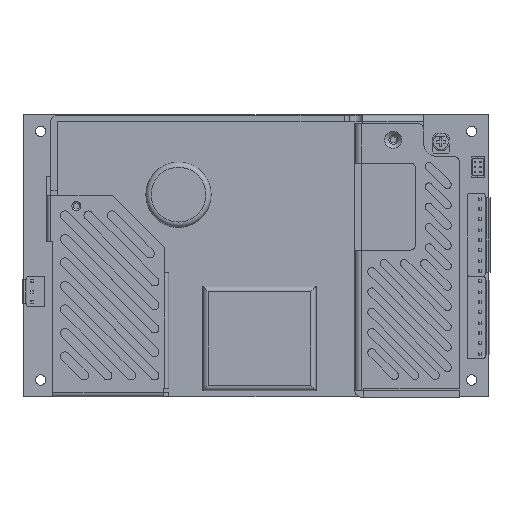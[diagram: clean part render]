
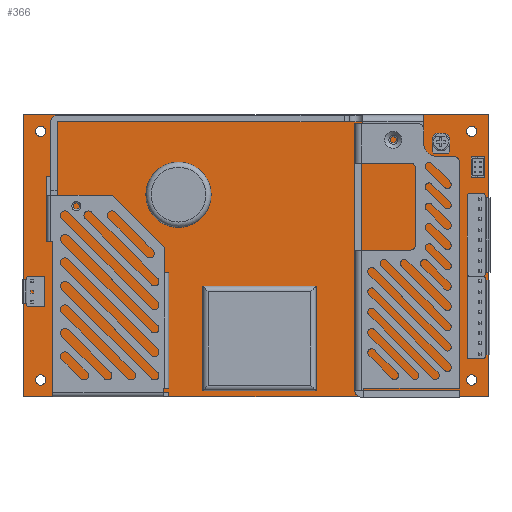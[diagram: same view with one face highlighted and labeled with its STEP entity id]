
A CAD part, top view. The second image highlights one B-rep face of the part: STEP entity #366.
In plain terms, the highlighted planar face has unit normal (0, 0, 1).
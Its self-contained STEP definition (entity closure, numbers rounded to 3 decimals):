
#112=CARTESIAN_POINT('',(-14.917,91.829,1.6));
#113=VERTEX_POINT('',#112);
#114=CARTESIAN_POINT('',(-16.897,91.829,1.6));
#115=DIRECTION('',(0.0,0.0,-1.0));
#116=DIRECTION('',(-1.0,0.0,0.0));
#117=AXIS2_PLACEMENT_3D('',#114,#115,#116);
#118=CIRCLE('',#117,1.98);
#119=EDGE_CURVE('',#113,#113,#118,.T.);
#140=CARTESIAN_POINT('',(150.183,91.829,1.6));
#141=VERTEX_POINT('',#140);
#142=CARTESIAN_POINT('',(148.203,91.829,1.6));
#143=DIRECTION('',(0.0,0.0,-1.0));
#144=DIRECTION('',(-1.0,0.0,0.0));
#145=AXIS2_PLACEMENT_3D('',#142,#143,#144);
#146=CIRCLE('',#145,1.98);
#147=EDGE_CURVE('',#141,#141,#146,.T.);
#168=CARTESIAN_POINT('',(-14.917,-3.421,1.6));
#169=VERTEX_POINT('',#168);
#170=CARTESIAN_POINT('',(-16.897,-3.421,1.6));
#171=DIRECTION('',(0.0,0.0,-1.0));
#172=DIRECTION('',(-1.0,0.0,0.0));
#173=AXIS2_PLACEMENT_3D('',#170,#171,#172);
#174=CIRCLE('',#173,1.98);
#175=EDGE_CURVE('',#169,#169,#174,.T.);
#196=CARTESIAN_POINT('',(150.183,-3.421,1.6));
#197=VERTEX_POINT('',#196);
#198=CARTESIAN_POINT('',(148.203,-3.421,1.6));
#199=DIRECTION('',(0.0,0.0,-1.0));
#200=DIRECTION('',(-1.0,0.0,0.0));
#201=AXIS2_PLACEMENT_3D('',#198,#199,#200);
#202=CIRCLE('',#201,1.98);
#203=EDGE_CURVE('',#197,#197,#202,.T.);
#224=CARTESIAN_POINT('',(154.553,98.204,1.6));
#225=VERTEX_POINT('',#224);
#226=CARTESIAN_POINT('',(154.553,-9.796,1.6));
#227=VERTEX_POINT('',#226);
#228=CARTESIAN_POINT('',(154.553,98.204,1.6));
#229=DIRECTION('',(0.0,-1.0,0.0));
#230=VECTOR('',#229,108.0);
#231=LINE('',#228,#230);
#232=EDGE_CURVE('',#225,#227,#231,.T.);
#264=CARTESIAN_POINT('',(-23.347,-9.796,1.6));
#265=VERTEX_POINT('',#264);
#266=CARTESIAN_POINT('',(154.553,-9.796,1.6));
#267=DIRECTION('',(-1.0,0.0,0.0));
#268=VECTOR('',#267,177.9);
#269=LINE('',#266,#268);
#270=EDGE_CURVE('',#227,#265,#269,.T.);
#295=CARTESIAN_POINT('',(-23.347,98.204,1.6));
#296=VERTEX_POINT('',#295);
#297=CARTESIAN_POINT('',(-23.347,-9.796,1.6));
#298=DIRECTION('',(0.0,1.0,0.0));
#299=VECTOR('',#298,108.0);
#300=LINE('',#297,#299);
#301=EDGE_CURVE('',#265,#296,#300,.T.);
#326=CARTESIAN_POINT('',(-23.347,98.204,1.6));
#327=DIRECTION('',(1.0,0.0,0.0));
#328=VECTOR('',#327,177.9);
#329=LINE('',#326,#328);
#330=EDGE_CURVE('',#296,#225,#329,.T.);
#343=CARTESIAN_POINT('',(65.603,44.204,1.6));
#344=DIRECTION('',(0.0,0.0,1.0));
#345=DIRECTION('',(1.0,0.0,0.0));
#346=AXIS2_PLACEMENT_3D('',#343,#344,#345);
#347=PLANE('',#346);
#348=ORIENTED_EDGE('',*,*,#232,.F.);
#349=ORIENTED_EDGE('',*,*,#330,.F.);
#350=ORIENTED_EDGE('',*,*,#301,.F.);
#351=ORIENTED_EDGE('',*,*,#270,.F.);
#352=EDGE_LOOP('',(#348,#349,#350,#351));
#353=FACE_OUTER_BOUND('',#352,.T.);
#354=ORIENTED_EDGE('',*,*,#119,.T.);
#355=EDGE_LOOP('',(#354));
#356=FACE_BOUND('',#355,.T.);
#357=ORIENTED_EDGE('',*,*,#147,.T.);
#358=EDGE_LOOP('',(#357));
#359=FACE_BOUND('',#358,.T.);
#360=ORIENTED_EDGE('',*,*,#175,.T.);
#361=EDGE_LOOP('',(#360));
#362=FACE_BOUND('',#361,.T.);
#363=ORIENTED_EDGE('',*,*,#203,.T.);
#364=EDGE_LOOP('',(#363));
#365=FACE_BOUND('',#364,.T.);
#366=ADVANCED_FACE('',(#353,#356,#359,#362,#365),#347,.T.);
